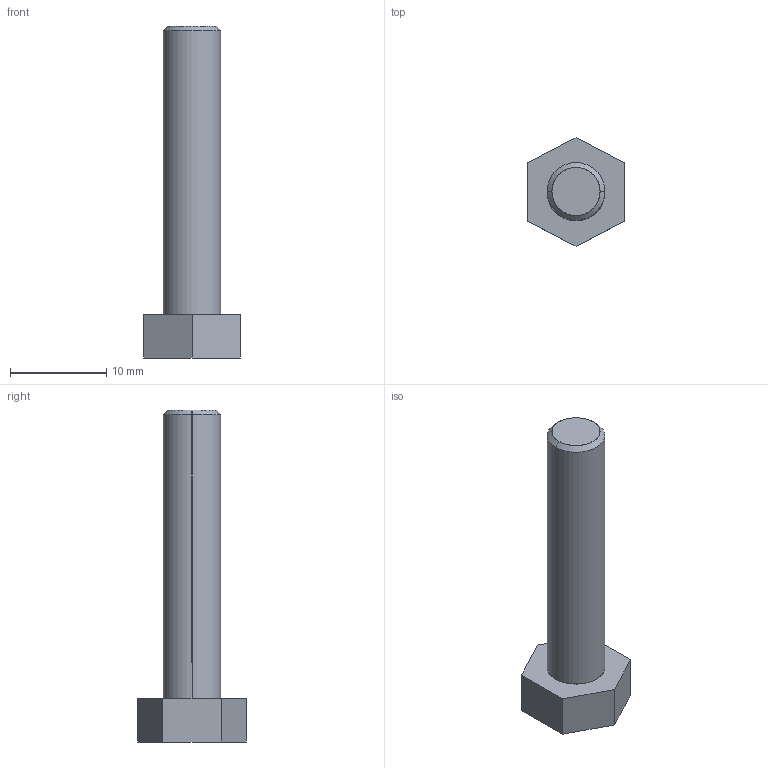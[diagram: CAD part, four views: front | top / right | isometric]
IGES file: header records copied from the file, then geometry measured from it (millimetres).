
Start section: SolidWorks IGES FILE using analytic representation for surfaces
Global section: file name: C:\Documents and Settings\lecoutey\Bureau\GR 57 E\57.100.10.IGS; native system: SolidWorks 2004 by SolidWorks Corporation; preprocessor: Version 5.3; author: lecoutey; date: 050330.132751; units: millimetre
Bounding box: 10 x 11.3 x 34.5 mm (x, y, z)
Surface area: 889.1 mm2 (no closed solid volume)
Topology: 0 solids, 0 shells, 13 faces, 116 edges, 116 vertices
Faces by surface type: bspline 9, revolution 4
